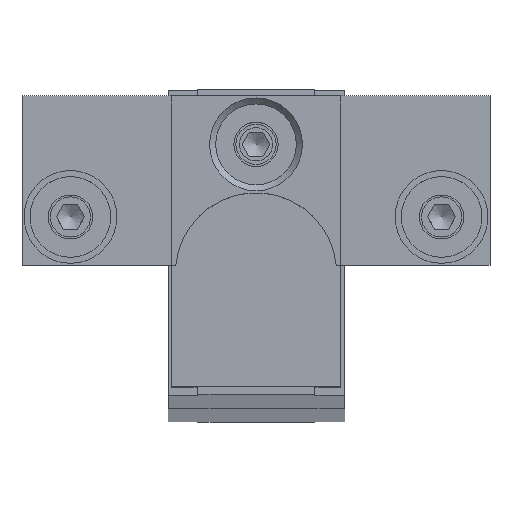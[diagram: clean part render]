
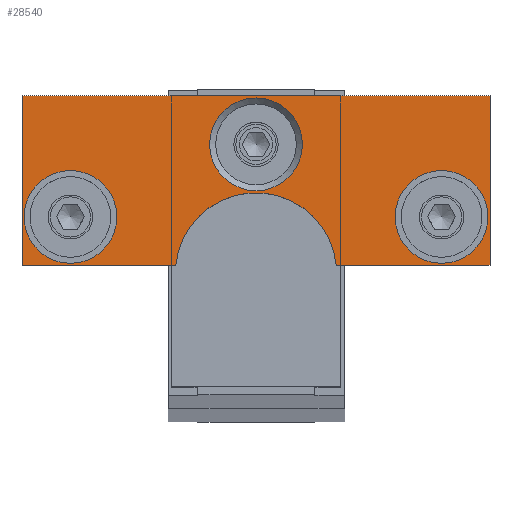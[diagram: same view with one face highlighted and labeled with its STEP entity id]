
A CAD part, top view. The second image highlights one B-rep face of the part: STEP entity #28540.
In plain terms, the highlighted planar face has unit normal (0, 0, 1).
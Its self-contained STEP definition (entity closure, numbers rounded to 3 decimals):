
#379=FACE_BOUND('',#3731,.T.);
#380=FACE_BOUND('',#3732,.T.);
#381=FACE_BOUND('',#3733,.T.);
#791=PLANE('',#30825);
#2059=FACE_OUTER_BOUND('',#3730,.T.);
#3730=EDGE_LOOP('',(#19680,#19681,#19682,#19683,#19684,#19685));
#3731=EDGE_LOOP('',(#19686));
#3732=EDGE_LOOP('',(#19687));
#3733=EDGE_LOOP('',(#19688));
#5897=LINE('',#48846,#6926);
#5898=LINE('',#48848,#6927);
#5899=LINE('',#48850,#6928);
#5900=LINE('',#48854,#6929);
#5901=LINE('',#48855,#6930);
#6926=VECTOR('',#36287,10.);
#6927=VECTOR('',#36288,10.);
#6928=VECTOR('',#36289,10.);
#6929=VECTOR('',#36292,10.);
#6930=VECTOR('',#36293,10.);
#8227=CIRCLE('',#30823,5.75);
#8229=CIRCLE('',#30826,10.);
#8230=CIRCLE('',#30827,5.75);
#8231=CIRCLE('',#30828,5.75);
#11132=VERTEX_POINT('',#48838);
#11134=VERTEX_POINT('',#48844);
#11135=VERTEX_POINT('',#48845);
#11136=VERTEX_POINT('',#48847);
#11137=VERTEX_POINT('',#48849);
#11138=VERTEX_POINT('',#48851);
#11139=VERTEX_POINT('',#48853);
#11140=VERTEX_POINT('',#48856);
#11141=VERTEX_POINT('',#48858);
#14535=EDGE_CURVE('',#11132,#11132,#8227,.T.);
#14538=EDGE_CURVE('',#11134,#11135,#5897,.T.);
#14539=EDGE_CURVE('',#11135,#11136,#5898,.T.);
#14540=EDGE_CURVE('',#11136,#11137,#5899,.T.);
#14541=EDGE_CURVE('',#11137,#11138,#8229,.T.);
#14542=EDGE_CURVE('',#11138,#11139,#5900,.T.);
#14543=EDGE_CURVE('',#11139,#11134,#5901,.T.);
#14544=EDGE_CURVE('',#11140,#11140,#8230,.T.);
#14545=EDGE_CURVE('',#11141,#11141,#8231,.T.);
#19680=ORIENTED_EDGE('',*,*,#14538,.T.);
#19681=ORIENTED_EDGE('',*,*,#14539,.T.);
#19682=ORIENTED_EDGE('',*,*,#14540,.T.);
#19683=ORIENTED_EDGE('',*,*,#14541,.T.);
#19684=ORIENTED_EDGE('',*,*,#14542,.T.);
#19685=ORIENTED_EDGE('',*,*,#14543,.T.);
#19686=ORIENTED_EDGE('',*,*,#14544,.F.);
#19687=ORIENTED_EDGE('',*,*,#14545,.F.);
#19688=ORIENTED_EDGE('',*,*,#14535,.F.);
#28540=ADVANCED_FACE('',(#2059,#379,#380,#381),#791,.T.);
#30823=AXIS2_PLACEMENT_3D('',#48839,#36280,#36281);
#30825=AXIS2_PLACEMENT_3D('',#48843,#36285,#36286);
#30826=AXIS2_PLACEMENT_3D('',#48852,#36290,#36291);
#30827=AXIS2_PLACEMENT_3D('',#48857,#36294,#36295);
#30828=AXIS2_PLACEMENT_3D('',#48859,#36296,#36297);
#36280=DIRECTION('center_axis',(0.,0.,
1.));
#36281=DIRECTION('ref_axis',(-1.,0.,0.));
#36285=DIRECTION('center_axis',(0.,0.,
1.));
#36286=DIRECTION('ref_axis',(1.,0.,0.));
#36287=DIRECTION('',(-1.,0.,0.));
#36288=DIRECTION('',(0.,-1.,0.));
#36289=DIRECTION('',(1.,0.,0.));
#36290=DIRECTION('center_axis',(0.,0.,
-1.));
#36291=DIRECTION('ref_axis',(0.995,0.1,0.));
#36292=DIRECTION('',(1.,0.,0.));
#36293=DIRECTION('',(0.,1.,0.));
#36294=DIRECTION('center_axis',(0.,0.,
1.));
#36295=DIRECTION('ref_axis',(-1.,0.,0.));
#36296=DIRECTION('center_axis',(0.,0.,
1.));
#36297=DIRECTION('ref_axis',(-1.,0.,0.));
#48838=CARTESIAN_POINT('',(39.65,22.,516.));
#48839=CARTESIAN_POINT('Origin',(33.9,22.,516.));
#48843=CARTESIAN_POINT('Origin',(10.9,27.153,516.));
#48844=CARTESIAN_POINT('',(39.9,37.,516.));
#48845=CARTESIAN_POINT('',(-18.1,37.,516.));
#48846=CARTESIAN_POINT('',(-18.1,37.,516.));
#48847=CARTESIAN_POINT('',(-18.1,16.,516.));
#48848=CARTESIAN_POINT('',(-18.1,16.,516.));
#48849=CARTESIAN_POINT('',(0.95,16.,516.));
#48850=CARTESIAN_POINT('',(0.95,16.,516.));
#48851=CARTESIAN_POINT('',(20.85,16.,516.));
#48852=CARTESIAN_POINT('Origin',(10.9,15.,516.));
#48853=CARTESIAN_POINT('',(39.9,16.,516.));
#48854=CARTESIAN_POINT('',(39.9,16.,516.));
#48855=CARTESIAN_POINT('',(39.9,37.,516.));
#48856=CARTESIAN_POINT('',(16.65,31.,516.));
#48857=CARTESIAN_POINT('Origin',(10.9,31.,516.));
#48858=CARTESIAN_POINT('',(-6.35,22.,516.));
#48859=CARTESIAN_POINT('Origin',(-12.1,22.,516.));
